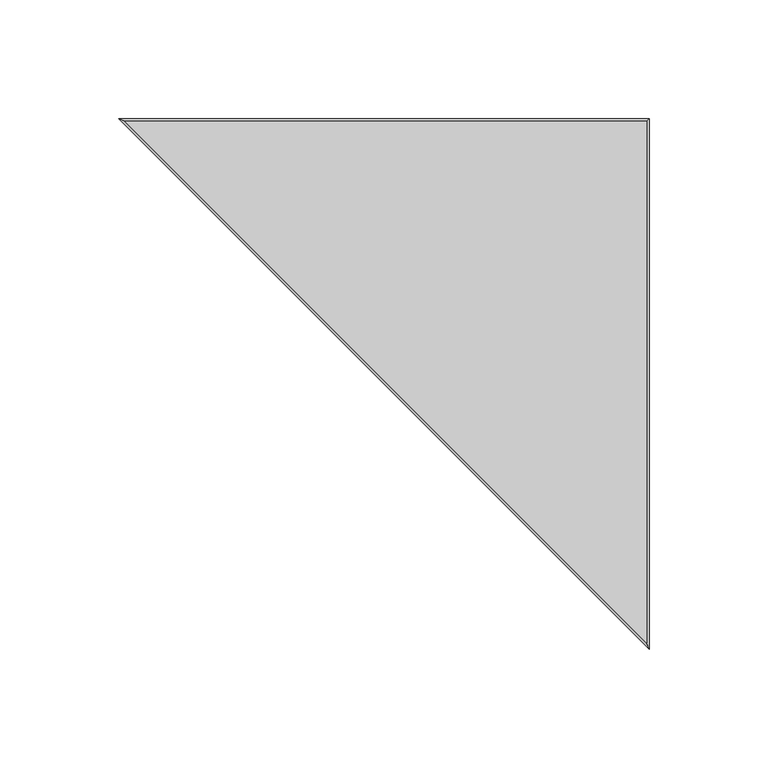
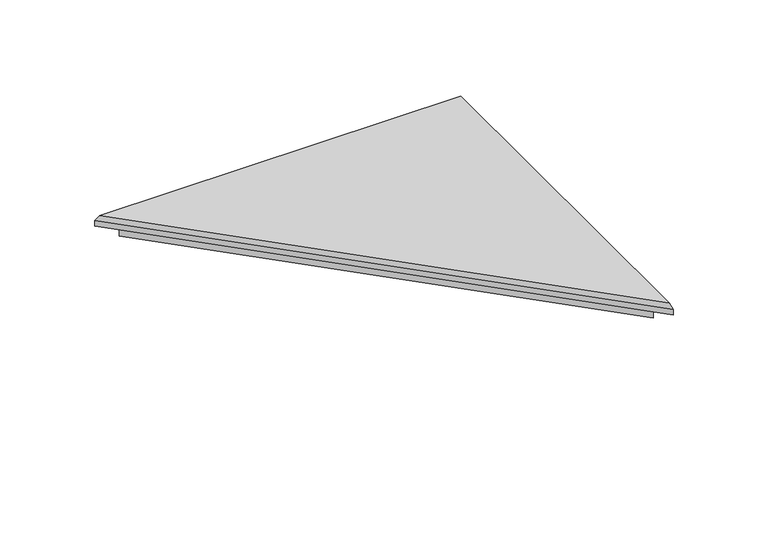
"""IFC4 building model written with IfcOpenShell, lengths in millimetres: sanitary terminal geometry, NLRS_PF_52_UN_Aqua Delta_in_uitloop_Easydrain : Aqua Delta onderuitloop 50mm, zij-ingang 40mm."""

import ifcopenshell
import ifcopenshell.guid

model = None  # the IFC model being written
_history = None  # IfcOwnerHistory: only IFC2X3 demands one
_inside = {}  # id of a spatial element -> (the spatial element, [elements in it])
_under = {}  # id of a project, library or spatial element -> (it, [spatial elements below it])
_declared = {}  # id of a project -> (the project, [libraries it declares])
_typed = {}  # id of a type object -> (the type object, [elements of that type])
_made_of = {}  # id of a material, layer set ... -> (it, [elements and type objects made of it])


def new_model(schema):
    """Start an empty IFC model of exactly this schema.

    Asked for "IFC4X3", IfcOpenShell would pick the latest addendum, in which some entities
    have other attributes; the version numbers below select the first issue.
    IFC2X3 requires an IfcOwnerHistory on every rooted entity: one is made here for all.
    """
    global model, _history
    if schema == "IFC4X3":
        model = ifcopenshell.file(schema_version=(4, 3, 0, 0))
    else:
        model = ifcopenshell.file(schema=schema)
    _inside.clear()
    _under.clear()
    _declared.clear()
    _typed.clear()
    _made_of.clear()
    _history = None
    if model.schema == "IFC2X3":
        org = make("IfcOrganization", Name="unknown")
        user = make(
            "IfcPersonAndOrganization",
            ThePerson=make("IfcPerson", FamilyName="unknown"),
            TheOrganization=org,
        )
        app = make(
            "IfcApplication",
            ApplicationDeveloper=org,
            Version="unknown",
            ApplicationFullName="unknown",
            ApplicationIdentifier="unknown",
        )
        _history = make(
            "IfcOwnerHistory",
            OwningUser=user,
            OwningApplication=app,
            ChangeAction="ADDED",
            CreationDate=0,
        )
    return model


def make(cls, **values):
    """One entity of the class cls with the attributes given. An attribute that is None is left unset."""
    return model.create_entity(
        cls, **{name: value for name, value in values.items() if value is not None}
    )


def rooted(cls, **values):
    """An entity with a GlobalId (a new one), such as an element, a storey or a relation."""
    return make(cls, GlobalId=ifcopenshell.guid.new(), OwnerHistory=_history, **values)


def si_unit(unit_type, name, prefix=None):
    """IfcSIUnit, for example si_unit("LENGTHUNIT", "METRE", prefix="MILLI")."""
    return make("IfcSIUnit", UnitType=unit_type, Prefix=prefix, Name=name)


def assignment(units):
    """IfcUnitAssignment: the units of a project."""
    return None if units is None else make("IfcUnitAssignment", Units=units)


def point(xyz):
    """IfcCartesianPoint."""
    return None if xyz is None else make("IfcCartesianPoint", Coordinates=xyz)


def direction(xyz):
    """IfcDirection."""
    return None if xyz is None else make("IfcDirection", DirectionRatios=xyz)


def frame(location, z_axis=None, x_axis=None):
    """IfcAxis2Placement3D, a coordinate frame: its origin and axes. An axis left out is left unset."""
    return make(
        "IfcAxis2Placement3D",
        Location=point(location),
        Axis=direction(z_axis),
        RefDirection=direction(x_axis),
    )


def origin():
    """The frame at (0, 0, 0) with its axes left unset."""
    return frame((0.0, 0.0, 0.0))


def place(relative_to, where):
    """IfcLocalPlacement: puts the frame where relative to a parent placement (None: the world)."""
    return make(
        "IfcLocalPlacement", PlacementRelTo=relative_to, RelativePlacement=where
    )


def context(
    kind, dimensions, precision=None, world=None, true_north=None, identifier=None
):
    """IfcGeometricRepresentationContext, for example the 3D "Model" context."""
    return make(
        "IfcGeometricRepresentationContext",
        ContextIdentifier=identifier,
        ContextType=kind,
        CoordinateSpaceDimension=dimensions,
        Precision=precision,
        WorldCoordinateSystem=world,
        TrueNorth=true_north,
    )


def project(units=None, contexts=None):
    """IfcProject with its units and contexts."""
    return rooted(
        "IfcProject",
        Name="project",
        RepresentationContexts=contexts,
        UnitsInContext=assignment(units),
    )


def spatial(cls, under=None, at=None, **own):
    """A site, building, storey or space (cls), placed at a placement, below another one or the project."""
    s = rooted(cls, ObjectPlacement=at, **own)
    if under is not None:
        _under.setdefault(under.id(), (under, []))[1].append(s)
    return s


def polyline(points):
    """IfcPolyline through the points."""
    return make("IfcPolyline", Points=[point(p) for p in points])


def outline(outer, holes=None, kind="AREA"):
    """IfcArbitraryClosedProfileDef: a profile drawn as a closed curve; with holes, ...WithVoids."""
    if holes is None:
        return make("IfcArbitraryClosedProfileDef", ProfileType=kind, OuterCurve=outer)
    return make(
        "IfcArbitraryProfileDefWithVoids",
        ProfileType=kind,
        OuterCurve=outer,
        InnerCurves=holes,
    )


def extrude(swept, where, along, depth):
    """IfcExtrudedAreaSolid: the profile swept, set in the frame where, extruded along a direction by depth."""
    return make(
        "IfcExtrudedAreaSolid",
        SweptArea=swept,
        Position=where,
        ExtrudedDirection=direction(along),
        Depth=depth,
    )


def faces_of(points, faces, orient=None, outer=None):
    """IfcFace entities. A face is a list of loops; a loop is a list of indices into points, from 0.

    orient and outer hold one flag for each loop. By default every Orientation is true, the
    first loop of a face is its IfcFaceOuterBound and the others are IfcFaceBound.
    """
    made = []
    for i, loops in enumerate(faces):
        bounds = []
        for j, loop in enumerate(loops):
            is_outer = j == 0 if outer is None else outer[i][j]
            bounds.append(
                make(
                    "IfcFaceOuterBound" if is_outer else "IfcFaceBound",
                    Bound=make("IfcPolyLoop", Polygon=[points[k] for k in loop]),
                    Orientation=True if orient is None else orient[i][j],
                )
            )
        made.append(make("IfcFace", Bounds=bounds))
    return made


def faceted_brep(points, faces, orient=None, outer=None, voids=None):
    """IfcFacetedBrep: a solid bounded by flat faces; with voids (closed shells), ...WithVoids."""
    shared = [point(p) for p in points]
    hull = make("IfcClosedShell", CfsFaces=faces_of(shared, faces, orient, outer))
    if voids is None:
        return make("IfcFacetedBrep", Outer=hull)
    return make(
        "IfcFacetedBrepWithVoids",
        Outer=hull,
        Voids=[
            make(cls, CfsFaces=faces_of(shared, fs, o, b)) for cls, fs, o, b in voids
        ],
    )


def shape(context_of_items, identifier, shape_type, items):
    """IfcShapeRepresentation: the items that make up one representation, for example the "Body"."""
    return make(
        "IfcShapeRepresentation",
        ContextOfItems=context_of_items,
        RepresentationIdentifier=identifier,
        RepresentationType=shape_type,
        Items=items,
    )


def source(mapping_origin, context_of_items, identifier, shape_type, items):
    """IfcRepresentationMap: a shape defined once, which mapped items show again and again."""
    return make(
        "IfcRepresentationMap",
        MappingOrigin=mapping_origin,
        MappedRepresentation=shape(context_of_items, identifier, shape_type, items),
    )


def transform(
    local_origin,
    x_axis=None,
    y_axis=None,
    z_axis=None,
    scale=None,
    scale2=None,
    scale3=None,
    uniform=True,
):
    """IfcCartesianTransformationOperator3D, or its non-uniform kind. x_axis, y_axis, z_axis: its Axis1, 2, 3."""
    if uniform:
        return make(
            "IfcCartesianTransformationOperator3D",
            Axis1=direction(x_axis),
            Axis2=direction(y_axis),
            LocalOrigin=point(local_origin),
            Scale=scale,
            Axis3=direction(z_axis),
        )
    return make(
        "IfcCartesianTransformationOperator3DnonUniform",
        Axis1=direction(x_axis),
        Axis2=direction(y_axis),
        LocalOrigin=point(local_origin),
        Scale=scale,
        Axis3=direction(z_axis),
        Scale2=scale2,
        Scale3=scale3,
    )


def mapped(mapping_source, mapping_target):
    """IfcMappedItem: shows the shape of a source again, moved by a transform."""
    return make(
        "IfcMappedItem", MappingSource=mapping_source, MappingTarget=mapping_target
    )


def made_of(thing, what):
    """Note that an element or type object is made of a material, layer set ...; save() writes the relation."""
    if what is not None:
        _made_of.setdefault(what.id(), (what, []))[1].append(thing)
    return thing


def element(
    cls,
    number,
    at=None,
    inside=None,
    cuts=None,
    type_object=None,
    material=None,
    context=None,
    identifier="Body",
    shape_type=None,
    held_by="IfcProductDefinitionShape",
    body=None,
    shapes=None,
    **own,
):
    """One element of the class cls, such as IfcWall. Its Tag is "e" and its number.

    at: its placement. inside: the storey or other place that contains it. cuts: it is an
    opening in that element (IfcRelVoidsElement). A single representation is given by context,
    identifier, shape_type and body (its items); several are given by shapes. held_by: the class
    of the entity that holds the representations. save() writes the other relations.
    """
    e = rooted(cls, Tag="e%d" % number, ObjectPlacement=at, **own)
    if body is not None:
        shapes = [shape(context, identifier, shape_type, body)]
    if shapes is not None:
        e.Representation = make(held_by, Representations=shapes)
    if inside is not None:
        _inside.setdefault(inside.id(), (inside, []))[1].append(e)
    if cuts is not None:
        rooted(
            "IfcRelVoidsElement", RelatingBuildingElement=cuts, RelatedOpeningElement=e
        )
    if type_object is not None:
        _typed.setdefault(type_object.id(), (type_object, []))[1].append(e)
    return made_of(e, material)


def aggregate(whole, parts):
    """IfcRelAggregates: a whole, such as a stair, and the parts it consists of."""
    return rooted("IfcRelAggregates", RelatingObject=whole, RelatedObjects=parts)


def save(model, path):
    """Write the relations noted so far, then the file.

    IfcRelAggregates (storeys below a building ...), IfcRelContainedInSpatialStructure (elements
    in a storey), IfcRelDefinesByType, IfcRelAssociatesMaterial and IfcRelDeclares: one each for
    every whole, place, type object, material and project.
    """
    for whole, parts in _under.values():
        aggregate(whole, parts)
    for where, things in _inside.values():
        rooted(
            "IfcRelContainedInSpatialStructure",
            RelatedElements=things,
            RelatingStructure=where,
        )
    for kind, things in _typed.values():
        rooted("IfcRelDefinesByType", RelatedObjects=things, RelatingType=kind)
    for what, things in _made_of.values():
        rooted("IfcRelAssociatesMaterial", RelatedObjects=things, RelatingMaterial=what)
    for by, libraries in _declared.values():
        rooted("IfcRelDeclares", RelatingContext=by, RelatedDefinitions=libraries)
    model.write(path)


def sanitary_terminal_2f80e022(model_context):
    return source(origin(), model_context, "Body", "SolidModel", [
        faceted_brep([(73.0, 73.0, -6.5), (73.0, -150.0, -6.5), (-150.0, 73.0, -6.5), (72.0, -147.5857864, 0.0), (72.0, 72.0, 0.0), (-147.5857864, 72.0, 0.0), (-150.0, 73.0, -3.0), (73.0, 73.0, -3.0), (73.0, -150.0, -3.0)], [[[0, 1, 2]], [[3, 4, 5]], [[0, 2, 6, 7]], [[2, 1, 8, 6]], [[1, 0, 7, 8]], [[3, 8, 7, 4]], [[8, 3, 5, 6]], [[4, 7, 6, 5]]]),
        extrude(outline(polyline([(68.0, 68.0), (68.0, -137.9289322), (-137.9289322, 68.0), (68.0, 68.0)])), frame((0.0, 0.0, -14.0), z_axis=(0.0, 0.0, 1.0), x_axis=(1.0, 0.0, 0.0)), (0.0, 0.0, 1.0), 7.5),
    ])


if __name__ == "__main__":
    model = new_model("IFC4")
    model_context = context("Model", 3, world=origin())
    ifc_project = project(units=[si_unit("LENGTHUNIT", "METRE", prefix="MILLI")], contexts=[model_context])
    site = spatial("IfcSite", under=ifc_project)
    building = spatial("IfcBuilding", under=site)
    placement = place(None, origin())
    sanitary_terminal_shape = sanitary_terminal_2f80e022(model_context)
    element("IfcSanitaryTerminal", 1, ObjectType="NLRS_PF_52_UN_Aqua Delta_in_uitloop_Easydrain : Aqua Delta onderuitloop 50mm, zij-ingang 40mm", at=placement, inside=building, context=model_context, shape_type="MappedRepresentation", body=[
        mapped(sanitary_terminal_shape, transform((0.0, 0.0, 0.0), x_axis=(1.0, 0.0, 0.0), y_axis=(0.0, 1.0, 0.0), z_axis=(0.0, 0.0, 1.0))),
    ])
    save(model, "model.ifc")
